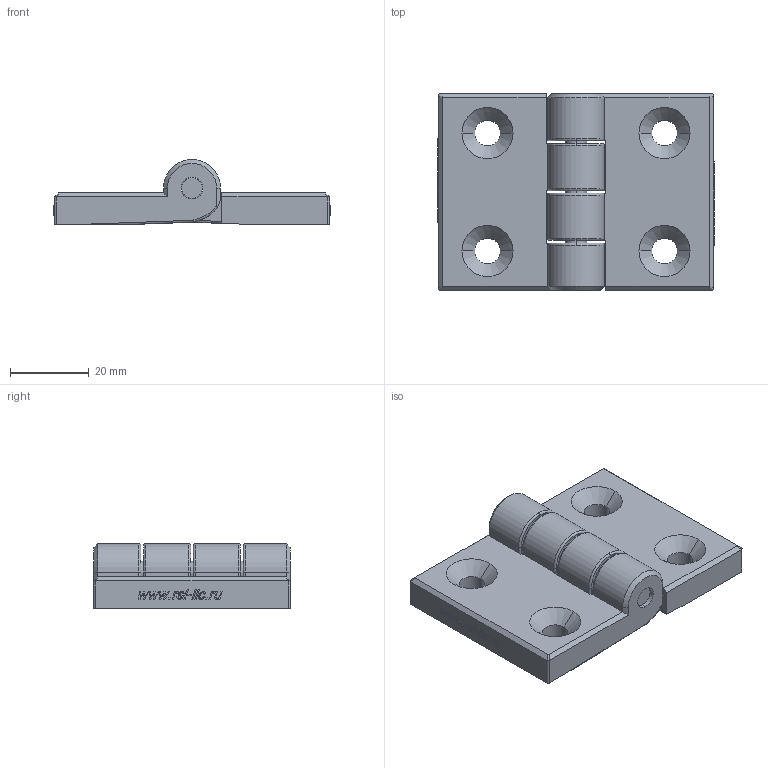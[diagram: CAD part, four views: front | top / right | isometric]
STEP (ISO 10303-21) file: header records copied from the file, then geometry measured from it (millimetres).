
FILE_DESCRIPTION (( 'STEP AP214' ), '1' );
FILE_NAME ('3016.STEP', '2020-10-12T11:51:41', ( '' ), ( '' ), 'SwSTEP 2.0', 'SolidWorks 2018', '' );
FILE_SCHEMA (( 'AUTOMOTIVE_DESIGN' ));
Length unit declared in the file: millimetre
Products named in the file (3): 3016; 3016-02; 3016-01
Assembly tree (3 placements, depth 2):
  3016
    3016-01  x2
    3016-02
Bounding box: 70.2 x 50 x 16.5 mm (x, y, z)
Volume: 28836.9 mm3; surface area: 13410.5 mm2
Topology: 3 solids, 3 shells, 454 faces, 1206 edges, 792 vertices
Faces by surface type: plane 298, bspline 84, cylinder 48, torus 14, cone 10
Entity records: 11141 total; most frequent: CARTESIAN_POINT 3855, ORIENTED_EDGE 1220, DIRECTION 958, EDGE_CURVE 610, VECTOR 452, LINE 452, VERTEX_POINT 400, EDGE_LOOP 256
